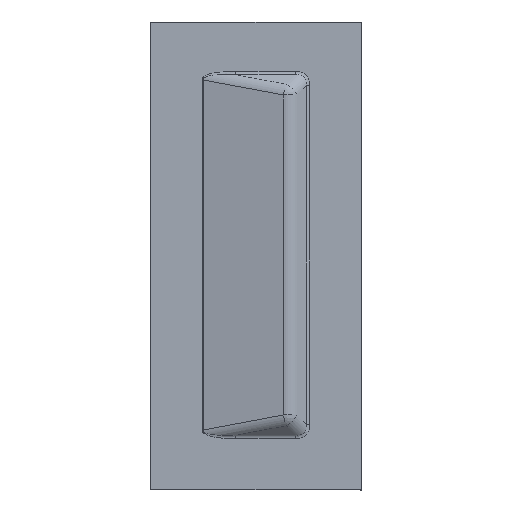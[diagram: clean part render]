
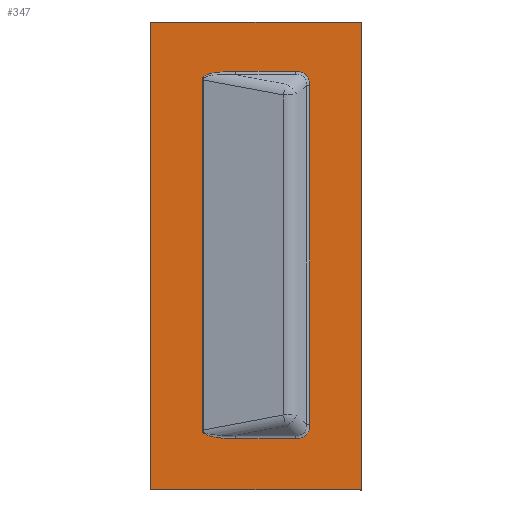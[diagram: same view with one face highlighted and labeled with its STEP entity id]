
A CAD part, top view. The second image highlights one B-rep face of the part: STEP entity #347.
In plain terms, the highlighted planar face has unit normal (0, 0, 1).
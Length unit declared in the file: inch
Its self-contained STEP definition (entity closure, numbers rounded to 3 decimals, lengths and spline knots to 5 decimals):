
#26=CARTESIAN_POINT('',(10.1307,8.28967,-12.53375));
#27=VERTEX_POINT('',#26);
#42=CARTESIAN_POINT('',(12.18,8.28967,-12.53375));
#43=VERTEX_POINT('',#42);
#50=CARTESIAN_POINT('',(245.16205,8.28967,-12.53375));
#51=DIRECTION('',(1.,0.,0.));
#52=VECTOR('',#51,1.);
#53=LINE('',#50,#52);
#54=EDGE_CURVE('',#27,#43,#53,.T.);
#73=CARTESIAN_POINT('',(12.18,12.85232,-12.53375));
#74=VERTEX_POINT('',#73);
#81=CARTESIAN_POINT('',(12.18,217.01749,-12.53375));
#82=DIRECTION('',(0.,1.,0.));
#83=VECTOR('',#82,1.);
#84=LINE('',#81,#83);
#85=EDGE_CURVE('',#43,#74,#84,.T.);
#201=CARTESIAN_POINT('',(10.1307,12.85232,-12.53375));
#202=VERTEX_POINT('',#201);
#209=CARTESIAN_POINT('',(245.23135,12.85232,-12.53375));
#210=DIRECTION('',(-1.,0.,0.));
#211=VECTOR('',#210,1.);
#212=LINE('',#209,#211);
#213=EDGE_CURVE('',#74,#202,#212,.T.);
#224=CARTESIAN_POINT('',(10.1307,402.11457,-12.53375));
#225=DIRECTION('',(0.,-1.,0.));
#226=VECTOR('',#225,1.);
#227=LINE('',#224,#226);
#228=EDGE_CURVE('',#202,#27,#227,.T.);
#240=ORIENTED_EDGE('',*,*,#54,.T.);
#241=ORIENTED_EDGE('',*,*,#85,.T.);
#242=ORIENTED_EDGE('',*,*,#213,.T.);
#243=ORIENTED_EDGE('',*,*,#228,.T.);
#244=EDGE_LOOP('',(#240,#241,#242,#243));
#245=FACE_OUTER_BOUND('',#244,.T.);
#246=CARTESIAN_POINT('',(10.63034,8.87496,-12.53375));
#247=VERTEX_POINT('',#246);
#248=CARTESIAN_POINT('',(10.95704,8.79007,-12.53375));
#249=VERTEX_POINT('',#248);
#250=CARTESIAN_POINT('',(10.63034,8.87496,-12.53375));
#251=CARTESIAN_POINT('',(10.63034,8.86493,-12.53375));
#252=CARTESIAN_POINT('',(10.63572,8.8559,-12.53375));
#253=CARTESIAN_POINT('',(10.64109,8.84689,-12.53375));
#254=CARTESIAN_POINT('',(10.65181,8.83897,-12.53375));
#255=CARTESIAN_POINT('',(10.67327,8.82312,-12.53375));
#256=CARTESIAN_POINT('',(10.71539,8.81217,-12.53375));
#257=CARTESIAN_POINT('',(10.75746,8.80124,-12.53375));
#258=CARTESIAN_POINT('',(10.81851,8.79565,-12.53375));
#259=CARTESIAN_POINT('',(10.87952,8.79007,-12.53375));
#260=CARTESIAN_POINT('',(10.95704,8.79007,-12.53375));
#261=B_SPLINE_CURVE_WITH_KNOTS('',2,(#250,#251,#252,#253,#254,#255,#256,#257,#258,#259,#260),.UNSPECIFIED.,.F.,.F.,(3,2,2,2,2,3),(0.,0.125,0.25,0.5,0.75,1.),.UNSPECIFIED.);
#262=EDGE_CURVE('',#247,#249,#261,.T.);
#263=ORIENTED_EDGE('',*,*,#262,.F.);
#264=CARTESIAN_POINT('',(10.63034,12.28672,-12.53375));
#265=VERTEX_POINT('',#264);
#266=CARTESIAN_POINT('',(10.63034,12.33084,-12.53375));
#267=DIRECTION('',(0.,1.,0.));
#268=VECTOR('',#267,39.37008);
#269=LINE('',#266,#268);
#270=EDGE_CURVE('',#247,#265,#269,.T.);
#271=ORIENTED_EDGE('',*,*,#270,.T.);
#272=CARTESIAN_POINT('',(10.95704,12.37161,-12.53375));
#273=VERTEX_POINT('',#272);
#274=CARTESIAN_POINT('',(10.95704,12.37161,-12.53375));
#275=CARTESIAN_POINT('',(10.87954,12.37161,-12.53375));
#276=CARTESIAN_POINT('',(10.81851,12.36603,-12.53375));
#277=CARTESIAN_POINT('',(10.75751,12.36045,-12.53375));
#278=CARTESIAN_POINT('',(10.71539,12.34951,-12.53375));
#279=CARTESIAN_POINT('',(10.67331,12.33858,-12.53375));
#280=CARTESIAN_POINT('',(10.65181,12.32272,-12.53375));
#281=CARTESIAN_POINT('',(10.64112,12.31482,-12.53375));
#282=CARTESIAN_POINT('',(10.63572,12.30579,-12.53375));
#283=CARTESIAN_POINT('',(10.63034,12.29678,-12.53375));
#284=CARTESIAN_POINT('',(10.63034,12.28672,-12.53375));
#285=B_SPLINE_CURVE_WITH_KNOTS('',2,(#274,#275,#276,#277,#278,#279,#280,#281,#282,#283,#284),.UNSPECIFIED.,.F.,.F.,(3,2,2,2,2,3),(0.,0.25,0.5,0.75,0.875,1.),.UNSPECIFIED.);
#286=EDGE_CURVE('',#273,#265,#285,.T.);
#287=ORIENTED_EDGE('',*,*,#286,.F.);
#288=CARTESIAN_POINT('',(11.54103,12.37161,-12.53375));
#289=VERTEX_POINT('',#288);
#290=CARTESIAN_POINT('',(12.12371,12.37161,-12.53375));
#291=DIRECTION('',(-1.,0.,0.));
#292=VECTOR('',#291,39.37008);
#293=LINE('',#290,#292);
#294=EDGE_CURVE('',#289,#273,#293,.T.);
#295=ORIENTED_EDGE('',*,*,#294,.F.);
#296=CARTESIAN_POINT('',(11.68023,12.23242,-12.53375));
#297=VERTEX_POINT('',#296);
#298=CARTESIAN_POINT('',(11.54103,12.37161,-12.53375));
#299=CARTESIAN_POINT('',(11.56207,12.37161,-12.53375));
#300=CARTESIAN_POINT('',(11.58151,12.36841,-12.53375));
#301=CARTESIAN_POINT('',(11.61587,12.35584,-12.53375));
#302=CARTESIAN_POINT('',(11.63078,12.34646,-12.53375));
#303=CARTESIAN_POINT('',(11.65508,12.32217,-12.53375));
#304=CARTESIAN_POINT('',(11.66445,12.30725,-12.53375));
#305=CARTESIAN_POINT('',(11.67703,12.27289,-12.53375));
#306=CARTESIAN_POINT('',(11.68023,12.25346,-12.53375));
#307=CARTESIAN_POINT('',(11.68023,12.23242,-12.53375));
#308=B_SPLINE_CURVE_WITH_KNOTS('',3,(#298,#299,#300,#301,#302,#303,#304,#305,#306,#307),.UNSPECIFIED.,.F.,.F.,(4,2,2,2,4),(0.,0.25,0.5,0.75,1.),.UNSPECIFIED.);
#309=EDGE_CURVE('',#289,#297,#308,.T.);
#310=ORIENTED_EDGE('',*,*,#309,.T.);
#311=CARTESIAN_POINT('',(11.68023,8.92927,-12.53375));
#312=VERTEX_POINT('',#311);
#313=CARTESIAN_POINT('',(11.68023,13.08084,-12.53375));
#314=DIRECTION('',(0.,1.,0.));
#315=VECTOR('',#314,39.37008);
#316=LINE('',#313,#315);
#317=EDGE_CURVE('',#312,#297,#316,.T.);
#318=ORIENTED_EDGE('',*,*,#317,.F.);
#319=CARTESIAN_POINT('',(11.54103,8.79007,-12.53375));
#320=VERTEX_POINT('',#319);
#321=CARTESIAN_POINT('',(11.68023,8.92927,-12.53375));
#322=CARTESIAN_POINT('',(11.68023,8.90823,-12.53375));
#323=CARTESIAN_POINT('',(11.67703,8.88879,-12.53375));
#324=CARTESIAN_POINT('',(11.66445,8.85443,-12.53375));
#325=CARTESIAN_POINT('',(11.65508,8.83952,-12.53375));
#326=CARTESIAN_POINT('',(11.63078,8.81522,-12.53375));
#327=CARTESIAN_POINT('',(11.61587,8.80585,-12.53375));
#328=CARTESIAN_POINT('',(11.58151,8.79327,-12.53375));
#329=CARTESIAN_POINT('',(11.56207,8.79007,-12.53375));
#330=CARTESIAN_POINT('',(11.54103,8.79007,-12.53375));
#331=B_SPLINE_CURVE_WITH_KNOTS('',3,(#321,#322,#323,#324,#325,#326,#327,#328,#329,#330),.UNSPECIFIED.,.F.,.F.,(4,2,2,2,4),(0.,0.25,0.5,0.75,1.),.UNSPECIFIED.);
#332=EDGE_CURVE('',#312,#320,#331,.T.);
#333=ORIENTED_EDGE('',*,*,#332,.T.);
#334=CARTESIAN_POINT('',(10.63946,8.79007,-12.53375));
#335=DIRECTION('',(-1.,0.,0.));
#336=VECTOR('',#335,39.37008);
#337=LINE('',#334,#336);
#338=EDGE_CURVE('',#320,#249,#337,.T.);
#339=ORIENTED_EDGE('',*,*,#338,.T.);
#340=EDGE_LOOP('',(#263,#271,#287,#295,#310,#318,#333,#339));
#341=FACE_BOUND('',#340,.T.);
#342=CARTESIAN_POINT('',(-0.29558,4.72792,-12.53375));
#343=DIRECTION('',(0.,0.,1.));
#344=DIRECTION('',(1.,0.,0.));
#345=AXIS2_PLACEMENT_3D('',#342,#343,#344);
#346=PLANE('',#345);
#347=ADVANCED_FACE('',(#245,#341),#346,.T.);
